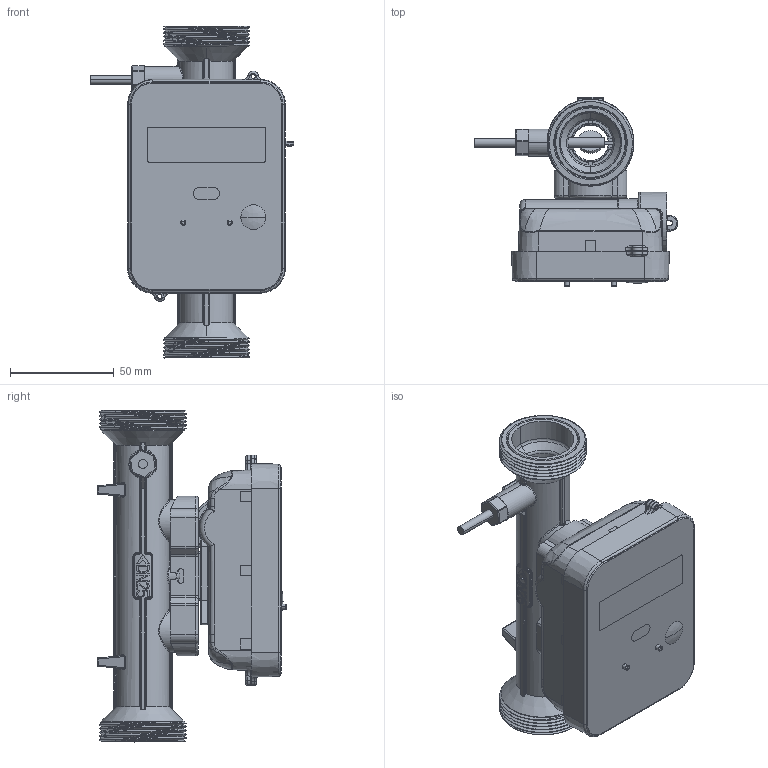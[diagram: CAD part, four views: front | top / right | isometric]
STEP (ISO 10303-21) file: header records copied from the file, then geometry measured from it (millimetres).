
FILE_DESCRIPTION((''),'2;1');
FILE_NAME('512A-DN25-TXZ_ASM','2026-03-06T17:10:48',('31642'),(''),'CREO PARAMETRIC BY PTC INC, 2021404','CREO PARAMETRIC BY PTC INC, 2021404','');
FILE_SCHEMA(('CONFIG_CONTROL_DESIGN','SHAPE_APPEARANCE_LAYERS_GROUPS'));
Products named in the file (24): DN25-CP-FSP_25______________1_5; DN25-CP-FSP_25______________1_7; DN25-CP-FSP_25______________1_6_ASM; DN25ZJNT_25______________1_1_1_; DN25-MF_95______________1_1_1_1; DN25_12________1_1_1_1_1_1; YB-01_5______________1_1_1_1_1_; M4X8_____________1_1_1_1_1_1_1; DT-MF_15______________1_1_1_1_1; PT1000_95______________1_1_1__1; ZJK-0191_________________1_1_1; XK___95__________________1_1_1; SK___95_________________1_1_1; YJ-01_95__2________________1_1_; ANJ___95___2________________1_1; KT-01_5________________ASM_1_AS_ASM; 18505_91_________________1_1_1; PCB-011_____3_________1_1_1; KX___91_________________1_1_1; 14-DCC_________________1_1_1; DCG_2_2_____________1_1_1; 512A-K_ASM_1_ASM; 512A-DN25_ASM_1_ASM; 512A-DN25-TXZ_ASM
Assembly tree (24 placements, depth 5):
  512A-DN25-TXZ_ASM
    512A-DN25_ASM_1_ASM
      DN25-CP-FSP_25______________1_6_ASM
        DN25-CP-FSP_25______________1_5
        DN25-CP-FSP_25______________1_7
      DN25ZJNT_25______________1_1_1_
      DN25-MF_95______________1_1_1_1  x2
      DN25_12________1_1_1_1_1_1
      YB-01_5______________1_1_1_1_1_
      M4X8_____________1_1_1_1_1_1_1
      DT-MF_15______________1_1_1_1_1
      PT1000_95______________1_1_1__1
      512A-K_ASM_1_ASM
        ZJK-0191_________________1_1_1
        KT-01_5________________ASM_1_AS_ASM
          XK___95__________________1_1_1
          SK___95_________________1_1_1
          YJ-01_95__2________________1_1_
          ANJ___95___2________________1_1
        18505_91_________________1_1_1
        PCB-011_____3_________1_1_1
        KX___91_________________1_1_1
        14-DCC_________________1_1_1
        DCG_2_2_____________1_1_1
Bounding box: 98.05 x 91.25 x 160 mm (x, y, z)
Volume: 162076.7 mm3; surface area: 154109.5 mm2
Topology: 20 solids, 25 shells, 2603 faces, 7181 edges, 4630 vertices
Faces by surface type: plane 1127, cylinder 796, bspline 367, torus 184, sphere 61, cone 57, extrusion 11
Entity records: 130705 total; most frequent: CARTESIAN_POINT 48722, ORIENTED_EDGE 14164, DIRECTION 12408, EDGE_CURVE 7100, VERTEX_POINT 4616, AXIS2_PLACEMENT_3D 4533, PRESENTATION_STYLE_ASSIGNMENT 3660, STYLED_ITEM 3660
